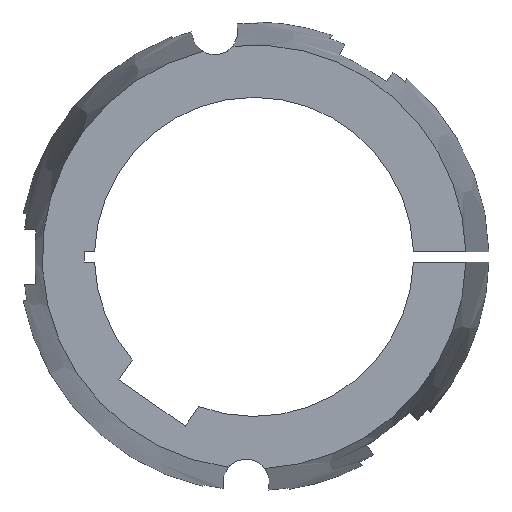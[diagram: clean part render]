
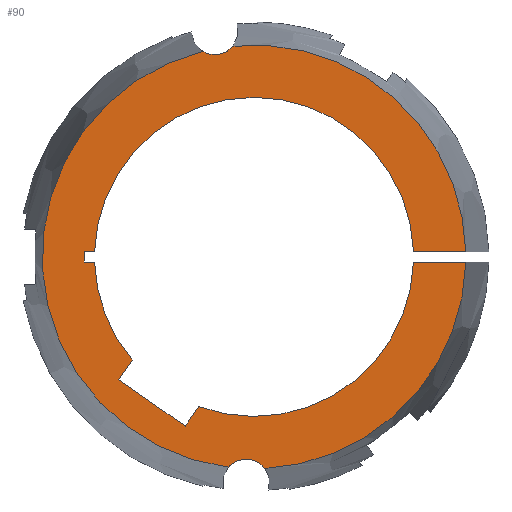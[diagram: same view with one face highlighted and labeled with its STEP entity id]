
A CAD part, left-side view. The second image highlights one B-rep face of the part: STEP entity #90.
In plain terms, the highlighted planar face has unit normal (-1, 0, 0).
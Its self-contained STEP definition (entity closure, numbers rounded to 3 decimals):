
#90 = ADVANCED_FACE( '', ( #140 ), #141, .F. );
#140 = FACE_OUTER_BOUND( '', #208, .T. );
#141 = PLANE( '', #209 );
#208 = EDGE_LOOP( '', ( #369, #370, #371, #372, #373, #374, #375, #376, #377, #378, #379, #380, #381, #382, #383, #384 ) );
#209 = AXIS2_PLACEMENT_3D( '', #385, #386, #387 );
#369 = ORIENTED_EDGE( '', *, *, #548, .F. );
#370 = ORIENTED_EDGE( '', *, *, #601, .F. );
#371 = ORIENTED_EDGE( '', *, *, #570, .T. );
#372 = ORIENTED_EDGE( '', *, *, #583, .T. );
#373 = ORIENTED_EDGE( '', *, *, #581, .T. );
#374 = ORIENTED_EDGE( '', *, *, #578, .T. );
#375 = ORIENTED_EDGE( '', *, *, #587, .T. );
#376 = ORIENTED_EDGE( '', *, *, #602, .T. );
#377 = ORIENTED_EDGE( '', *, *, #603, .T. );
#378 = ORIENTED_EDGE( '', *, *, #604, .T. );
#379 = ORIENTED_EDGE( '', *, *, #605, .T. );
#380 = ORIENTED_EDGE( '', *, *, #606, .T. );
#381 = ORIENTED_EDGE( '', *, *, #572, .T. );
#382 = ORIENTED_EDGE( '', *, *, #607, .F. );
#383 = ORIENTED_EDGE( '', *, *, #551, .F. );
#384 = ORIENTED_EDGE( '', *, *, #608, .F. );
#385 = CARTESIAN_POINT( '', ( -114., 0., 0. ) );
#386 = DIRECTION( '', ( 1., 0., 0. ) );
#387 = DIRECTION( '', ( 0., 1., 0. ) );
#548 = EDGE_CURVE( '', #649, #651, #652, .F. );
#551 = EDGE_CURVE( '', #655, #657, #658, .F. );
#570 = EDGE_CURVE( '', #693, #691, #694, .T. );
#572 = EDGE_CURVE( '', #696, #697, #698, .T. );
#578 = EDGE_CURVE( '', #709, #707, #710, .T. );
#581 = EDGE_CURVE( '', #714, #709, #715, .T. );
#583 = EDGE_CURVE( '', #691, #714, #717, .T. );
#587 = EDGE_CURVE( '', #707, #721, #723, .T. );
#601 = EDGE_CURVE( '', #693, #649, #745, .T. );
#602 = EDGE_CURVE( '', #721, #746, #747, .T. );
#603 = EDGE_CURVE( '', #746, #748, #749, .T. );
#604 = EDGE_CURVE( '', #748, #750, #751, .T. );
#605 = EDGE_CURVE( '', #750, #752, #753, .T. );
#606 = EDGE_CURVE( '', #752, #696, #754, .T. );
#607 = EDGE_CURVE( '', #657, #697, #755, .T. );
#608 = EDGE_CURVE( '', #651, #655, #756, .T. );
#649 = VERTEX_POINT( '', #815 );
#651 = VERTEX_POINT( '', #826 );
#652 = CIRCLE( '', #827, 8.125 );
#655 = VERTEX_POINT( '', #839 );
#657 = VERTEX_POINT( '', #852 );
#658 = CIRCLE( '', #853, 8.125 );
#691 = VERTEX_POINT( '', #920 );
#693 = VERTEX_POINT( '', #923 );
#694 = LINE( '', #924, #925 );
#696 = VERTEX_POINT( '', #933 );
#697 = VERTEX_POINT( '', #934 );
#698 = LINE( '', #935, #936 );
#707 = VERTEX_POINT( '', #954 );
#709 = VERTEX_POINT( '', #957 );
#710 = LINE( '', #958, #959 );
#714 = VERTEX_POINT( '', #965 );
#715 = LINE( '', #966, #967 );
#717 = CIRCLE( '', #970, 55. );
#721 = VERTEX_POINT( '', #975 );
#723 = LINE( '', #978, #979 );
#745 = CIRCLE( '', #1004, 73.028 );
#746 = VERTEX_POINT( '', #1005 );
#747 = CIRCLE( '', #1006, 55. );
#748 = VERTEX_POINT( '', #1007 );
#749 = LINE( '', #1008, #1009 );
#750 = VERTEX_POINT( '', #1010 );
#751 = LINE( '', #1011, #1012 );
#752 = VERTEX_POINT( '', #1013 );
#753 = LINE( '', #1014, #1015 );
#754 = CIRCLE( '', #1016, 55. );
#755 = CIRCLE( '', #1017, 73.028 );
#756 = CIRCLE( '', #1018, 73.028 );
#815 = CARTESIAN_POINT( '', ( -114., -3.751, -72.932 ) );
#826 = CARTESIAN_POINT( '', ( -114., 8.826, -72.493 ) );
#827 = AXIS2_PLACEMENT_3D( '', #1192, #1193, #1194 );
#839 = CARTESIAN_POINT( '', ( -114., 17.661, 70.861 ) );
#852 = CARTESIAN_POINT( '', ( -114., 7.262, 72.666 ) );
#853 = AXIS2_PLACEMENT_3D( '', #1195, #1196, #1197 );
#920 = CARTESIAN_POINT( '', ( -114., -54.972, -1.75 ) );
#923 = CARTESIAN_POINT( '', ( -114., -73.007, -1.75 ) );
#924 = CARTESIAN_POINT( '', ( -114., -81., -1.75 ) );
#925 = VECTOR( '', #1227, 1000. );
#933 = CARTESIAN_POINT( '', ( -114., -54.972, 1.75 ) );
#934 = CARTESIAN_POINT( '', ( -114., -73.007, 1.75 ) );
#935 = CARTESIAN_POINT( '', ( -114., 0., 1.75 ) );
#936 = VECTOR( '', #1228, 1000. );
#954 = CARTESIAN_POINT( '', ( -114., 46.686, -42.266 ) );
#957 = CARTESIAN_POINT( '', ( -114., 23.749, -58.326 ) );
#958 = CARTESIAN_POINT( '', ( -114., 23.749, -58.326 ) );
#959 = VECTOR( '', #1233, 1000. );
#965 = CARTESIAN_POINT( '', ( -114., 19.039, -51.599 ) );
#966 = CARTESIAN_POINT( '', ( -114., 19.039, -51.599 ) );
#967 = VECTOR( '', #1236, 1000. );
#970 = AXIS2_PLACEMENT_3D( '', #1238, #1239, #1240 );
#975 = CARTESIAN_POINT( '', ( -114., 41.976, -35.539 ) );
#978 = CARTESIAN_POINT( '', ( -114., 46.686, -42.266 ) );
#979 = VECTOR( '', #1246, 1000. );
#1004 = AXIS2_PLACEMENT_3D( '', #1280, #1281, #1282 );
#1005 = CARTESIAN_POINT( '', ( -114., 54.972, -1.75 ) );
#1006 = AXIS2_PLACEMENT_3D( '', #1283, #1284, #1285 );
#1007 = CARTESIAN_POINT( '', ( -114., 58.5, -1.75 ) );
#1008 = CARTESIAN_POINT( '', ( -114., 0., -1.75 ) );
#1009 = VECTOR( '', #1286, 1000. );
#1010 = CARTESIAN_POINT( '', ( -114., 58.5, 1.75 ) );
#1011 = CARTESIAN_POINT( '', ( -114., 58.5, -1.75 ) );
#1012 = VECTOR( '', #1287, 1000. );
#1013 = CARTESIAN_POINT( '', ( -114., 54.972, 1.75 ) );
#1014 = CARTESIAN_POINT( '', ( -114., 58.5, 1.75 ) );
#1015 = VECTOR( '', #1288, 1000. );
#1016 = AXIS2_PLACEMENT_3D( '', #1289, #1290, #1291 );
#1017 = AXIS2_PLACEMENT_3D( '', #1292, #1293, #1294 );
#1018 = AXIS2_PLACEMENT_3D( '', #1295, #1296, #1297 );
#1192 = CARTESIAN_POINT( '', ( -114., 2.717, -77.85 ) );
#1193 = DIRECTION( '', ( 1., 0., 0. ) );
#1194 = DIRECTION( '', ( 0., 1., 0. ) );
#1195 = CARTESIAN_POINT( '', ( -114., 13.519, 77.85 ) );
#1196 = DIRECTION( '', ( 1., 0., 0. ) );
#1197 = DIRECTION( '', ( 0., 1., 0. ) );
#1227 = DIRECTION( '', ( 0., 1., 0. ) );
#1228 = DIRECTION( '', ( 0., -1., 0. ) );
#1233 = DIRECTION( '', ( 0., 0.819, 0.574 ) );
#1236 = DIRECTION( '', ( 0., 0.574, -0.819 ) );
#1238 = CARTESIAN_POINT( '', ( -114., 0., 0. ) );
#1239 = DIRECTION( '', ( 1., 0., 0. ) );
#1240 = DIRECTION( '', ( 0., 0., -1. ) );
#1246 = DIRECTION( '', ( 0., -0.574, 0.819 ) );
#1280 = CARTESIAN_POINT( '', ( -114., 0., 0. ) );
#1281 = DIRECTION( '', ( 1., 0., 0. ) );
#1282 = DIRECTION( '', ( 0., 1., 0. ) );
#1283 = CARTESIAN_POINT( '', ( -114., 0., 0. ) );
#1284 = DIRECTION( '', ( 1., 0., 0. ) );
#1285 = DIRECTION( '', ( 0., 0., -1. ) );
#1286 = DIRECTION( '', ( 0., 1., 0. ) );
#1287 = DIRECTION( '', ( 0., 0., 1. ) );
#1288 = DIRECTION( '', ( 0., -1., 0. ) );
#1289 = CARTESIAN_POINT( '', ( -114., 0., 0. ) );
#1290 = DIRECTION( '', ( 1., 0., 0. ) );
#1291 = DIRECTION( '', ( 0., 0., -1. ) );
#1292 = CARTESIAN_POINT( '', ( -114., 0., 0. ) );
#1293 = DIRECTION( '', ( 1., 0., 0. ) );
#1294 = DIRECTION( '', ( 0., 1., 0. ) );
#1295 = CARTESIAN_POINT( '', ( -114., 0., 0. ) );
#1296 = DIRECTION( '', ( 1., 0., 0. ) );
#1297 = DIRECTION( '', ( 0., 1., 0. ) );
